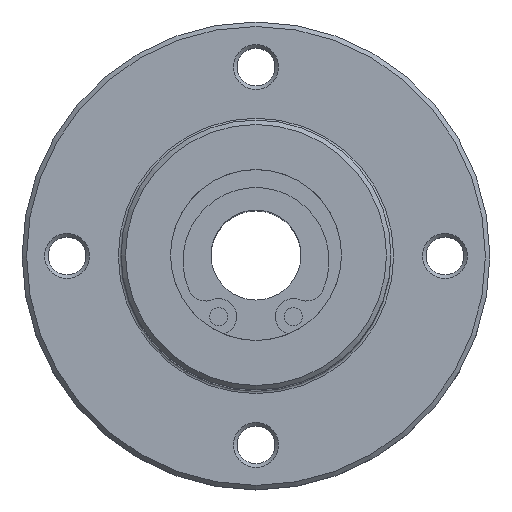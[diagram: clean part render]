
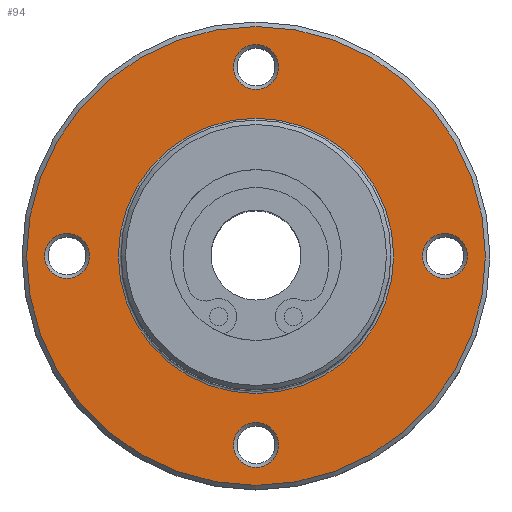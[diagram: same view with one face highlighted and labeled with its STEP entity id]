
A CAD part, top view. The second image highlights one B-rep face of the part: STEP entity #94.
In plain terms, the highlighted planar face has unit normal (0, 0, 1).
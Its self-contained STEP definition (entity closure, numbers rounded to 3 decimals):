
#94=ADVANCED_FACE('',(#174,#175,#176,#177,#178,#179),#180,.T.);
#174=FACE_BOUND('',#314,.T.);
#175=FACE_BOUND('',#315,.T.);
#176=FACE_BOUND('',#316,.T.);
#177=FACE_BOUND('',#317,.T.);
#178=FACE_BOUND('',#318,.T.);
#179=FACE_OUTER_BOUND('',#319,.T.);
#180=PLANE('',#320);
#314=EDGE_LOOP('',(#533));
#315=EDGE_LOOP('',(#534));
#316=EDGE_LOOP('',(#535));
#317=EDGE_LOOP('',(#536));
#318=EDGE_LOOP('',(#537));
#319=EDGE_LOOP('',(#538));
#320=AXIS2_PLACEMENT_3D('',#539,#540,#541);
#533=ORIENTED_EDGE('',*,*,#741,.T.);
#534=ORIENTED_EDGE('',*,*,#742,.T.);
#535=ORIENTED_EDGE('',*,*,#743,.T.);
#536=ORIENTED_EDGE('',*,*,#744,.T.);
#537=ORIENTED_EDGE('',*,*,#745,.F.);
#538=ORIENTED_EDGE('',*,*,#746,.T.);
#539=CARTESIAN_POINT('',(0.0,20.4,8.0));
#540=DIRECTION('',(0.,0.0,1.0));
#541=DIRECTION('',(1.0,0.0,0.));
#741=EDGE_CURVE('',#851,#851,#852,.T.);
#742=EDGE_CURVE('',#853,#853,#854,.T.);
#743=EDGE_CURVE('',#855,#855,#856,.T.);
#744=EDGE_CURVE('',#857,#857,#858,.T.);
#745=EDGE_CURVE('',#859,#859,#860,.T.);
#746=EDGE_CURVE('',#861,#861,#862,.T.);
#851=VERTEX_POINT('',#996);
#852=CIRCLE('',#997,2.5);
#853=VERTEX_POINT('',#998);
#854=CIRCLE('',#999,2.5);
#855=VERTEX_POINT('',#1000);
#856=CIRCLE('',#1001,2.5);
#857=VERTEX_POINT('',#1002);
#858=CIRCLE('',#1003,2.5);
#859=VERTEX_POINT('',#1004);
#860=CIRCLE('',#1005,15.3);
#861=VERTEX_POINT('',#1006);
#862=CIRCLE('',#1007,25.5);
#996=CARTESIAN_POINT('',(18.5,0.,8.0));
#997=AXIS2_PLACEMENT_3D('',#1171,#1172,#1173);
#998=CARTESIAN_POINT('',(-23.5,0.,8.0));
#999=AXIS2_PLACEMENT_3D('',#1174,#1175,#1176);
#1000=CARTESIAN_POINT('',(-2.5,21.0,8.0));
#1001=AXIS2_PLACEMENT_3D('',#1177,#1178,#1179);
#1002=CARTESIAN_POINT('',(-2.5,-21.0,8.0));
#1003=AXIS2_PLACEMENT_3D('',#1180,#1181,#1182);
#1004=CARTESIAN_POINT('',(0.0,15.3,8.0));
#1005=AXIS2_PLACEMENT_3D('',#1183,#1184,#1185);
#1006=CARTESIAN_POINT('',(0.0,25.5,8.0));
#1007=AXIS2_PLACEMENT_3D('',#1186,#1187,#1188);
#1171=CARTESIAN_POINT('',(21.0,0.0,8.0));
#1172=DIRECTION('',(0.0,0.0,-1.0));
#1173=DIRECTION('',(1.0,0.0,0.0));
#1174=CARTESIAN_POINT('',(-21.0,0.0,8.0));
#1175=DIRECTION('',(0.0,0.0,-1.0));
#1176=DIRECTION('',(1.0,0.0,0.0));
#1177=CARTESIAN_POINT('',(0.0,21.0,8.0));
#1178=DIRECTION('',(0.0,0.0,-1.0));
#1179=DIRECTION('',(1.0,0.0,0.0));
#1180=CARTESIAN_POINT('',(0.0,-21.0,8.0));
#1181=DIRECTION('',(0.0,0.0,-1.0));
#1182=DIRECTION('',(1.0,0.0,0.0));
#1183=CARTESIAN_POINT('',(0.0,0.0,8.0));
#1184=DIRECTION('',(0.,-0.0,1.0));
#1185=DIRECTION('',(0.0,1.0,0.0));
#1186=CARTESIAN_POINT('',(0.0,0.0,8.0));
#1187=DIRECTION('',(0.,-0.0,1.0));
#1188=DIRECTION('',(0.0,1.0,0.0));
